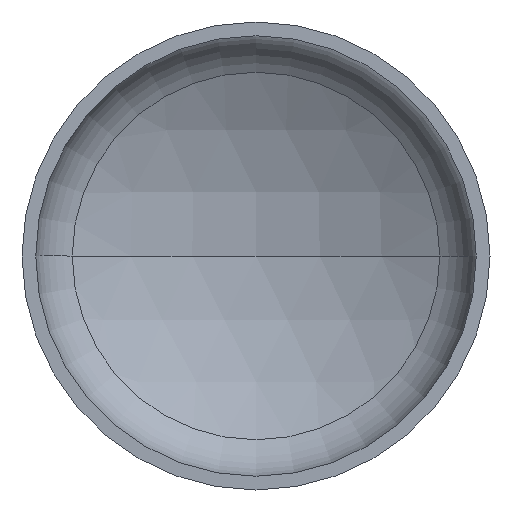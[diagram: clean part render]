
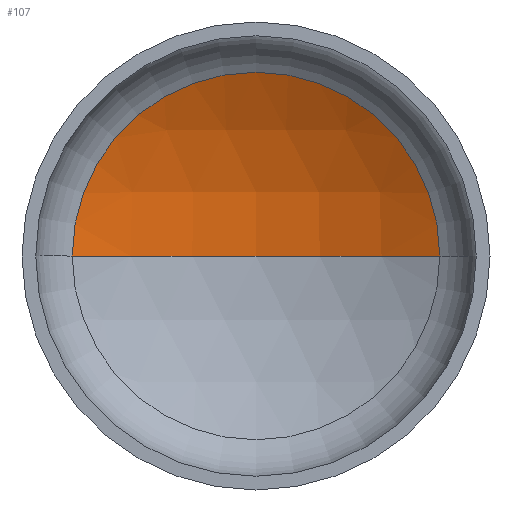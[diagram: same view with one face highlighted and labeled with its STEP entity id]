
A CAD part, front view. The second image highlights one B-rep face of the part: STEP entity #107.
In plain terms, the highlighted spherical face has radius 1280 mm.
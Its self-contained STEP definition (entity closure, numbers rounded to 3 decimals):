
#12 = AXIS2_PLACEMENT_3D ( 'NONE', #174, #269, #40 ) ;
#14 = AXIS2_PLACEMENT_3D ( 'NONE', #249, #194, #366 ) ;
#18 = AXIS2_PLACEMENT_3D ( 'NONE', #158, #150, #156 ) ;
#20 = CARTESIAN_POINT ( 'NONE',  ( 0., 528.246, 0. ) ) ;
#40 = DIRECTION ( 'NONE',  ( 1., 0., 0. ) ) ;
#41 = AXIS2_PLACEMENT_3D ( 'NONE', #209, #212, #210 ) ;
#46 = ORIENTED_EDGE ( 'NONE', *, *, #355, .T. ) ;
#50 = VERTEX_POINT ( 'NONE', #240 ) ;
#85 = VERTEX_POINT ( 'NONE', #291 ) ;
#107 = ADVANCED_FACE ( 'NONE', ( #171 ), #303, .F. ) ;
#150 = DIRECTION ( 'NONE',  ( 0., -1., 0. ) ) ;
#155 = VERTEX_POINT ( 'NONE', #20 ) ;
#156 = DIRECTION ( 'NONE',  ( 1., 0., 0. ) ) ;
#158 = CARTESIAN_POINT ( 'NONE',  ( 0., 363.459, 0. ) ) ;
#160 = ORIENTED_EDGE ( 'NONE', *, *, #352, .T. ) ;
#166 = EDGE_LOOP ( 'NONE', ( #172, #46, #160 ) ) ;
#171 = FACE_OUTER_BOUND ( 'NONE', #166, .T. ) ;
#172 = ORIENTED_EDGE ( 'NONE', *, *, #356, .F. ) ;
#174 = CARTESIAN_POINT ( 'NONE',  ( 0., -751.754, 0. ) ) ;
#194 = DIRECTION ( 'NONE',  ( 0., 0., -1. ) ) ;
#204 = CIRCLE ( 'NONE', #12, 1280. ) ;
#209 = CARTESIAN_POINT ( 'NONE',  ( 0., -751.754, 0. ) ) ;
#210 = DIRECTION ( 'NONE',  ( -1., 0., 0. ) ) ;
#212 = DIRECTION ( 'NONE',  ( 0., 0., -1. ) ) ;
#240 = CARTESIAN_POINT ( 'NONE',  ( 628.251, 363.459, 0. ) ) ;
#249 = CARTESIAN_POINT ( 'NONE',  ( 0., -751.754, 0. ) ) ;
#269 = DIRECTION ( 'NONE',  ( 0., 0., 1. ) ) ;
#276 = CIRCLE ( 'NONE', #14, 1280. ) ;
#291 = CARTESIAN_POINT ( 'NONE',  ( -628.251, 363.459, 0. ) ) ;
#303 = SPHERICAL_SURFACE ( 'NONE', #41, 1280. ) ;
#330 = CIRCLE ( 'NONE', #18, 628.251 ) ;
#352 = EDGE_CURVE ( 'NONE', #50, #85, #330, .T. ) ;
#355 = EDGE_CURVE ( 'NONE', #155, #50, #276, .T. ) ;
#356 = EDGE_CURVE ( 'NONE', #155, #85, #204, .T. ) ;
#366 = DIRECTION ( 'NONE',  ( -1., 0., 0. ) ) ;
